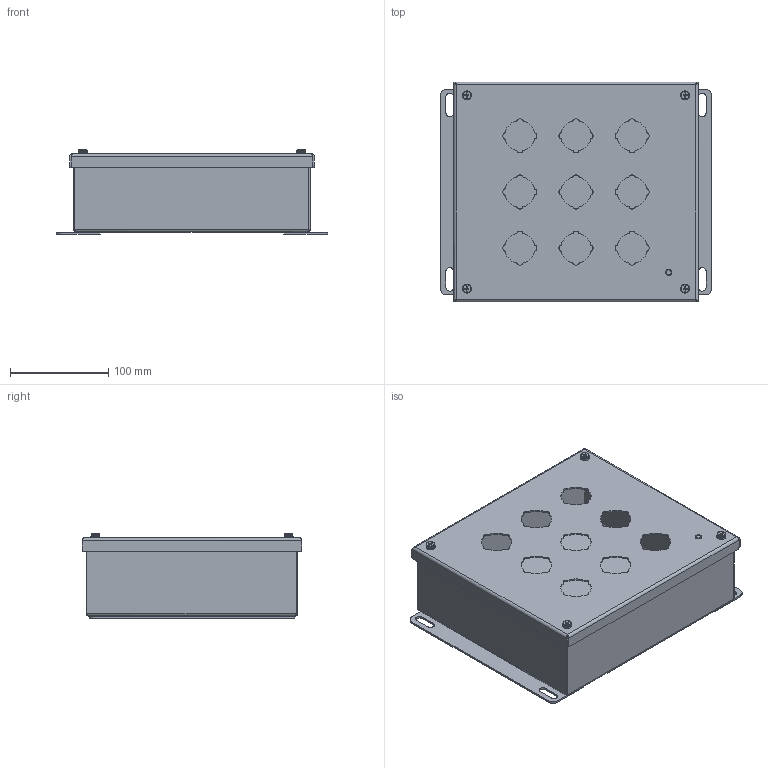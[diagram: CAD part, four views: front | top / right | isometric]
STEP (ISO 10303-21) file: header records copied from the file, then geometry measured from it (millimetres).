
FILE_DESCRIPTION((''),'2;1');
FILE_NAME('MODEL-394_ASM','2021-06-07T13:03:48',('mikek'),('SAGINAW CONTROL & ENGINEERING'),'CREO PARAMETRIC BY PTC INC, 2017260','CREO PARAMETRIC BY PTC INC, 2017260','');
FILE_SCHEMA(('AUTOMOTIVE_DESIGN { 1 0 10303 214 1 1 1 1 }'));
Length unit declared in the file: inch
Products named in the file (10): MODEL-394-BDY; MODEL-394-DR; 100097; 101966; MODEL-394-STRP; 100012; 102599; 102534; MODEL-394-GSKT; MODEL-394_ASM
Assembly tree (16 placements, depth 2):
  MODEL-394_ASM
    MODEL-394-BDY
    MODEL-394-DR
    100097
    101966
    MODEL-394-STRP  x2
    100012
    102599  x4
    102534  x4
    MODEL-394-GSKT
Bounding box: 276.23 x 223.84 x 85.69 mm (x, y, z)
Volume: 339473.7 mm3; surface area: 441885.9 mm2
Topology: 19 solids, 19 shells, 851 faces, 2170 edges, 1300 vertices
Faces by surface type: cylinder 362, plane 265, bspline 108, torus 88, cone 28
Entity records: 26720 total; most frequent: CARTESIAN_POINT 6455, DIRECTION 2916, ORIENTED_EDGE 2728, EDGE_CURVE 1364, PRESENTATION_STYLE_ASSIGNMENT 1276, STYLED_ITEM 1276, CURVE_STYLE 1200, AXIS2_PLACEMENT_3D 1115
